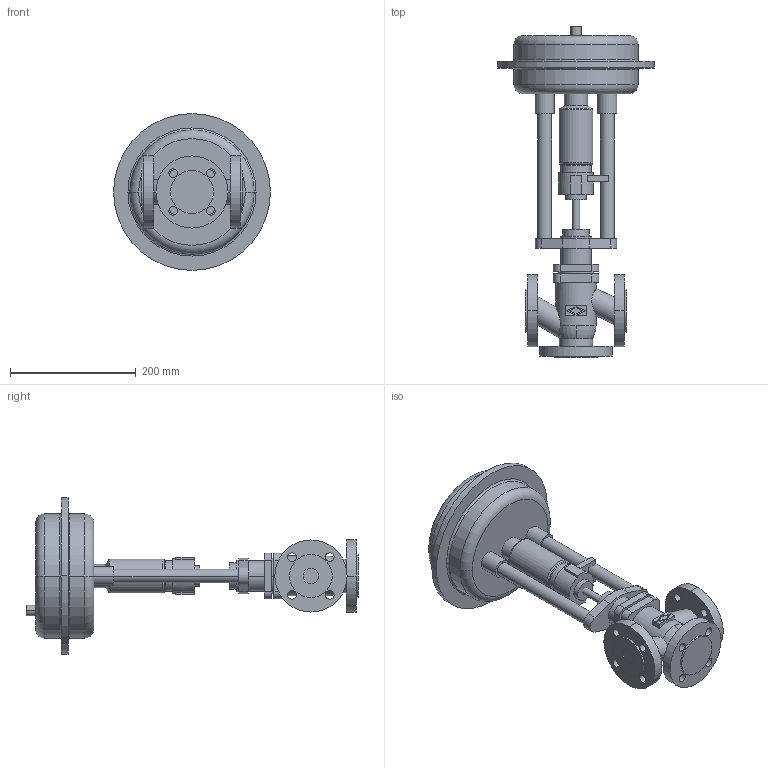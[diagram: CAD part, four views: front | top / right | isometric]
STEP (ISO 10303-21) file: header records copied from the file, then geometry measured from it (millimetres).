
FILE_DESCRIPTION(('OneSpaceDesigner STEP Export'),'2;1');
FILE_NAME('c000000769.stp','2006-09-13T12:38:34',(''),(''),'OneSpace Designer STEP processor for AP214 (Solid Model)','OneSpace Designer 13.20A 18-Aug-2005 (C) CoCreate Software GmbH','');
FILE_SCHEMA(('AUTOMOTIVE_DESIGN { 1 0 10303 214 1 1 1 1 }'));
Length unit declared in the file: millimetre
Products named in the file (2): 1; 2
Bounding box: 250 x 529 x 250 mm (x, y, z)
Volume: 4743289.1 mm3; surface area: 364364.7 mm2
Topology: 2 solids, 2 shells, 199 faces, 479 edges, 314 vertices
Faces by surface type: cylinder 96, plane 81, torus 18, cone 4
Entity records: 5337 total; most frequent: CARTESIAN_POINT 1007, ORIENTED_EDGE 958, DIRECTION 798, EDGE_CURVE 479, VERTEX_POINT 314, AXIS2_PLACEMENT_3D 288, EDGE_LOOP 253, VECTOR 222
